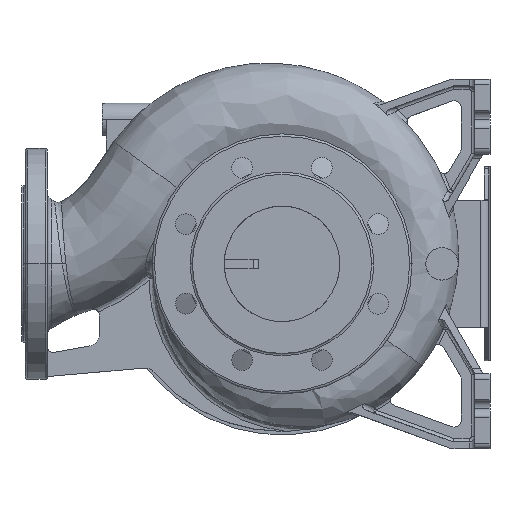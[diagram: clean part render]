
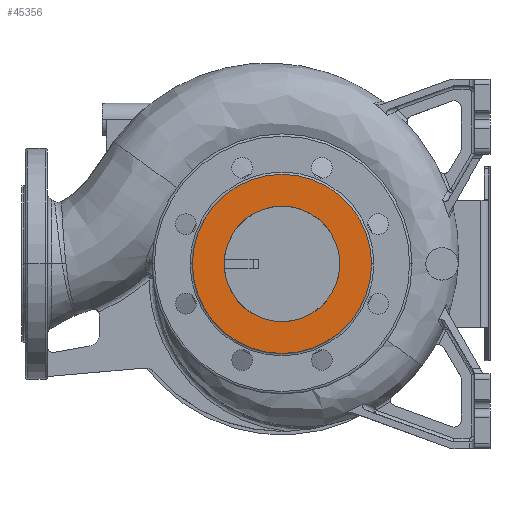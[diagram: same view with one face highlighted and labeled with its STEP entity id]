
A CAD part, front view. The second image highlights one B-rep face of the part: STEP entity #45356.
In plain terms, the highlighted planar face has unit normal (0, -1, 0).
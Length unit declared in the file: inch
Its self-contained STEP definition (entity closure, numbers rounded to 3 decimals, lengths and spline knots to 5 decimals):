
#3691 = DIRECTION ( 'NONE',  ( 1., 0., 0. ) ) ;
#4209 = EDGE_LOOP ( 'NONE', ( #51791, #32940 ) ) ;
#4852 = AXIS2_PLACEMENT_3D ( 'NONE', #133398, #107020, #23777 ) ;
#5486 = CIRCLE ( 'NONE', #48987, 3.05118 ) ;
#10240 = CARTESIAN_POINT ( 'NONE',  ( -3.05118, -10.03937, 0. ) ) ;
#10720 = CARTESIAN_POINT ( 'NONE',  ( 0., -10.03937, 0. ) ) ;
#12664 = VERTEX_POINT ( 'NONE', #49014 ) ;
#15720 = CARTESIAN_POINT ( 'NONE',  ( 0., -10.03937, 0. ) ) ;
#18671 = EDGE_CURVE ( 'NONE', #27656, #12664, #89146, .T. ) ;
#23777 = DIRECTION ( 'NONE',  ( -1., 0., 0. ) ) ;
#27656 = VERTEX_POINT ( 'NONE', #10240 ) ;
#32766 = ORIENTED_EDGE ( 'NONE', *, *, #114207, .F. ) ;
#32940 = ORIENTED_EDGE ( 'NONE', *, *, #18671, .T. ) ;
#33401 = EDGE_CURVE ( 'NONE', #135420, #134872, #134774, .T. ) ;
#35172 = AXIS2_PLACEMENT_3D ( 'NONE', #81857, #80273, #45864 ) ;
#45356 = ADVANCED_FACE ( 'NONE', ( #113304, #122182 ), #87716, .F. ) ;
#45864 = DIRECTION ( 'NONE',  ( -1., 0., 0. ) ) ;
#48313 = DIRECTION ( 'NONE',  ( -1., 0., 0. ) ) ;
#48987 = AXIS2_PLACEMENT_3D ( 'NONE', #10720, #121906, #48313 ) ;
#49014 = CARTESIAN_POINT ( 'NONE',  ( 3.05118, -10.03937, 0. ) ) ;
#51791 = ORIENTED_EDGE ( 'NONE', *, *, #142159, .F. ) ;
#52256 = DIRECTION ( 'NONE',  ( 0., -1., 0. ) ) ;
#54306 = CIRCLE ( 'NONE', #138636, 1.9685 ) ;
#59553 = EDGE_LOOP ( 'NONE', ( #32766, #118515 ) ) ;
#73868 = CARTESIAN_POINT ( 'NONE',  ( 1.9685, -10.03937, 0. ) ) ;
#75487 = DIRECTION ( 'NONE',  ( -1., 0., 0. ) ) ;
#80273 = DIRECTION ( 'NONE',  ( 0., 1., 0. ) ) ;
#81857 = CARTESIAN_POINT ( 'NONE',  ( 0., -10.03937, 0. ) ) ;
#87716 = PLANE ( 'NONE',  #137457 ) ;
#89146 = CIRCLE ( 'NONE', #4852, 3.05118 ) ;
#107020 = DIRECTION ( 'NONE',  ( 0., -1., 0. ) ) ;
#111727 = DIRECTION ( 'NONE',  ( 0., 1., 0. ) ) ;
#113304 = FACE_OUTER_BOUND ( 'NONE', #4209, .T. ) ;
#114207 = EDGE_CURVE ( 'NONE', #135420, #134872, #54306, .T. ) ;
#118515 = ORIENTED_EDGE ( 'NONE', *, *, #33401, .T. ) ;
#121906 = DIRECTION ( 'NONE',  ( 0., 1., 0. ) ) ;
#122182 = FACE_BOUND ( 'NONE', #59553, .T. ) ;
#122914 = CARTESIAN_POINT ( 'NONE',  ( -1.9685, -10.03937, 0. ) ) ;
#124312 = CARTESIAN_POINT ( 'NONE',  ( 0., -10.03937, 0. ) ) ;
#133398 = CARTESIAN_POINT ( 'NONE',  ( 0., -10.03937, 0. ) ) ;
#134774 = CIRCLE ( 'NONE', #35172, 1.9685 ) ;
#134872 = VERTEX_POINT ( 'NONE', #73868 ) ;
#135420 = VERTEX_POINT ( 'NONE', #122914 ) ;
#137457 = AXIS2_PLACEMENT_3D ( 'NONE', #15720, #111727, #3691 ) ;
#138636 = AXIS2_PLACEMENT_3D ( 'NONE', #124312, #52256, #75487 ) ;
#142159 = EDGE_CURVE ( 'NONE', #27656, #12664, #5486, .T. ) ;
